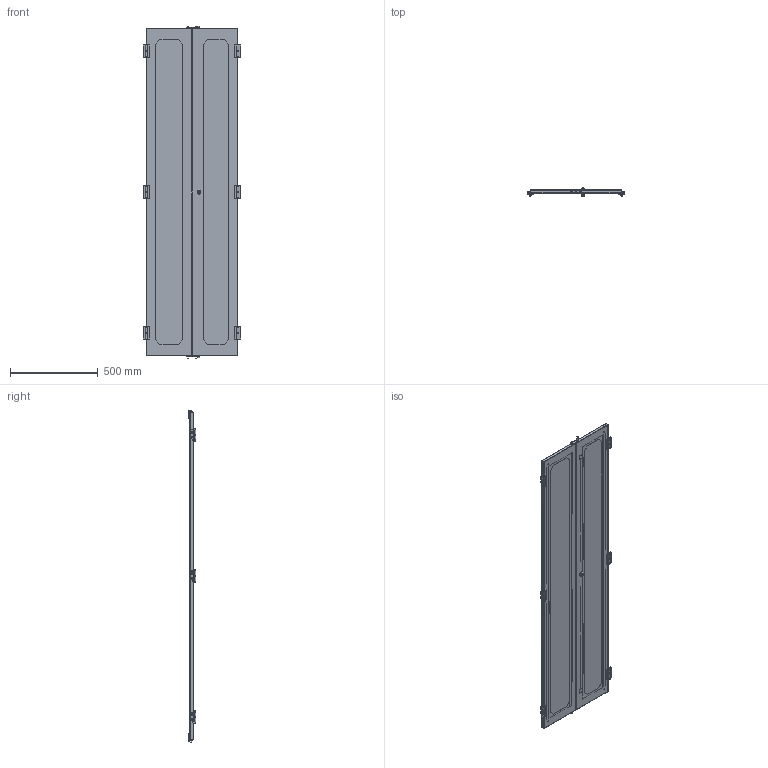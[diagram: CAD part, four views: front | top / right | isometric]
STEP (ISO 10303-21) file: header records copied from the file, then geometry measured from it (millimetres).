
FILE_DESCRIPTION(/* description */ ('Unknown'),/* implementation_level */ '2;1');
FILE_NAME(/* name */ 'C4BD2473V',/* time_stamp */ '2025-02-13T14:39:51-05:00',/* author */ ('Unknown'),/* organization */ ('Unknown'),/* preprocessor_version */ 'ST-DEVELOPER v18.104',/* originating_system */ 'Solid Edge',/* authorisation */ 'Unknown');
FILE_SCHEMA (('AUTOMOTIVE_DESIGN {1 0 10303 214 3 1 1}'));
Products named in the file (35): C4BD2473V; COM56744-2; COM57778-32; std26020; COM55940-7; GRM109956; HNG14615; HNG14615-2; HNG14615-4; HNG14615-3; HNG14615-1; HNG14616; HNG14616-1; HNG14616-5; HNG14616-2; COM56745-2; COM55857; COM55940-5; COM57778-28; COM55846-5; RVT17753; COM55856-5; WAM25493; COM55858; LOK10018-B; MLD87968; 6_32 STEEL NYLON-INSERT LOCKNUT; 6_32 x 7_16 PAN HEAD PHILLIPS MACHINE SCREW; COM57435; GSK10053-1.50; STD21899
Assembly tree (61 placements, depth 4):
  C4BD2473V
    COM56744-2
      COM57778-32  x4
      std26020  x2
      COM55940-7
      COM56744-2
    GRM109956  x2
    HNG14615  x3
      HNG14615-2
      HNG14615-4
      HNG14615-3
      HNG14615-1
    HNG14616  x3
      HNG14616-1
      HNG14616-5
        HNG14616-2
        HNG14615-3
      HNG14615-4
      HNG14615-1
    COM56745-2
      COM55857  x2
      std26020  x2
      COM55940-5
      COM56745-2
      COM57778-28  x2
      COM57778-32  x2
    COM55846-5
      RVT17753  x2
      COM55856-5  x2
      WAM25493  x2
      COM55858
    LOK10018-B
    MLD87968  x2
      6_32 STEEL NYLON-INSERT LOCKNUT
      6_32 x 7_16 PAN HEAD PHILLIPS MACHINE SCREW
      MLD87968
    COM57435  x2
      GSK10053-1.50
      STD21899
      COM57435
Bounding box: 555.87 x 45.1 x 1891 mm (x, y, z)
Volume: 2330777 mm3; surface area: 3117174.4 mm2
Topology: 79 solids, 79 shells, 5249 faces, 14783 edges, 10185 vertices
Faces by surface type: plane 3034, cylinder 1491, bspline 245, sphere 180, torus 156, cone 143
Full cylindrical faces by diameter (mm): 2.821 x2, 2.937 x6, 3.505 x8, 4.166 x4, 4.191 x4, 4.5 x4, 4.651 x2, 4.775 x6, 4.978 x4, 5.08 x2, 5.969 x4, 6 x18, 6.1 x6, 6.2 x24, 6.35 x6, 6.731 x2, 6.858 x2, 8.89 x2, 9.95 x12, 10.16 x2, 10.312 x12, 11.049 x1, 11.557 x2, 13.589 x1, 13.97 x5, 20.015 x1
Entity records: 55962 total; most frequent: CARTESIAN_POINT 15642, ORIENTED_EDGE 8466, DIRECTION 7208, EDGE_CURVE 4233, VERTEX_POINT 2998, AXIS2_PLACEMENT_3D 2624, LINE 1960, VECTOR 1960
